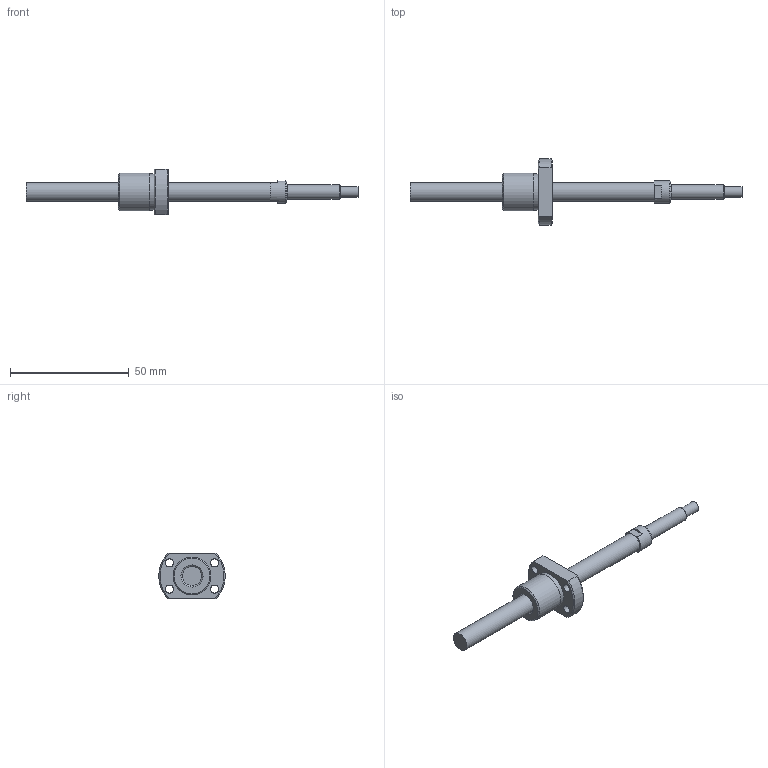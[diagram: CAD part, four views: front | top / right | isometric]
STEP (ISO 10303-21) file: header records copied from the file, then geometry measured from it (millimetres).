
FILE_DESCRIPTION(/* description */ ('STEP AP214'),/* implementation_level */ '2;1');
FILE_NAME(/* name */ 'NSGF0802Z-099R140C3-0-T-S-T-A-(39-S)',/* time_stamp */ '2026-08-24T20:11:12+02:00',/* author */ ('License CC BY-ND 4.0'),/* organization */ ('CADENAS'),/* preprocessor_version */ 'ST-DEVELOPER v20',/* originating_system */ 'PARTsolutions',/* authorisation */ ' ');
FILE_SCHEMA (('AUTOMOTIVE_DESIGN {1 0 10303 214 3 1 1}'));
Length unit declared in the file: millimetre
Products named in the file (3): NSGF0802Z-099R140C3-0-T-S-T-A-(39-S); NSG0802Z-99R14023_(T-S_T-A_2)-2; NSGF0802Z-1
Assembly tree (2 placements, depth 2):
  NSGF0802Z-099R140C3-0-T-S-T-A-(39-S)
    NSG0802Z-99R14023_(T-S_T-A_2)-2
    NSGF0802Z-1
Bounding box: 140 x 27.9 x 19 mm (x, y, z)
Volume: 10535.8 mm3; surface area: 6357.5 mm2
Topology: 2 solids, 2 shells, 40 faces, 88 edges, 57 vertices
Faces by surface type: plane 17, cylinder 14, cone 8, torus 1
Full cylindrical faces by diameter (mm): 3.4 x4, 4.5 x1, 6 x1, 8 x2, 9.5 x1, 13 x1, 15.5 x1, 16 x1
Entity records: 1095 total; most frequent: CARTESIAN_POINT 187, DIRECTION 186, ORIENTED_EDGE 134, AXIS2_PLACEMENT_3D 84, EDGE_LOOP 72, FACE_BOUND 72, EDGE_CURVE 67, VERTEX_POINT 53
